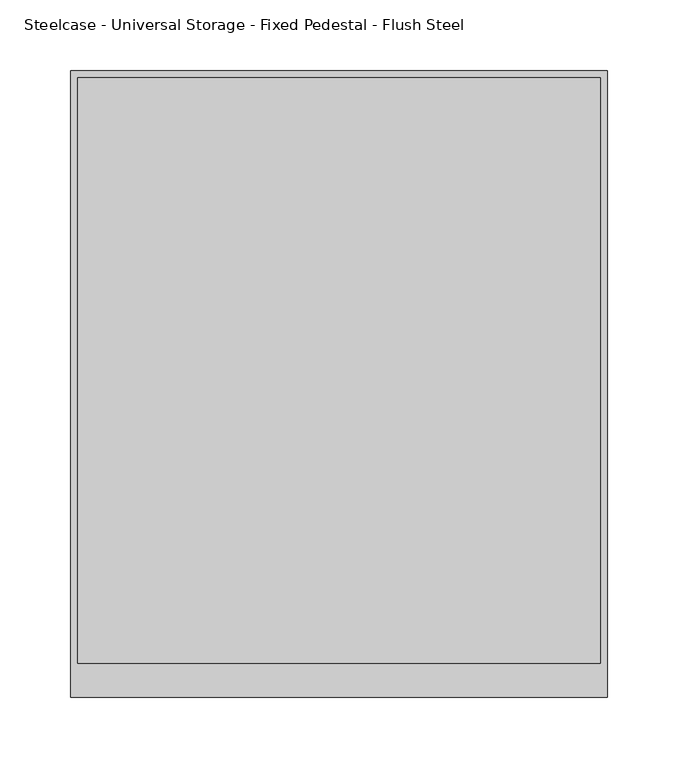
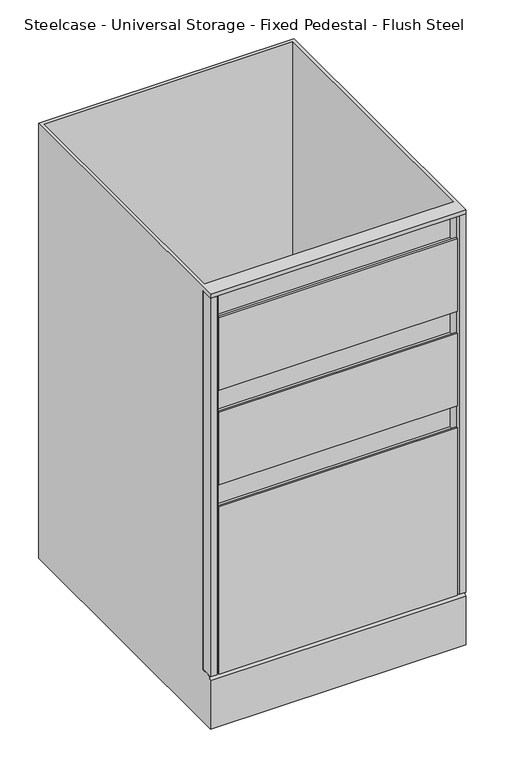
"""IFC4 building model written with IfcOpenShell, lengths in millimetres: furniture geometry, Steelcase - Universal Storage - Fixed Pedestal - Flush Steel : 2 Box/1 File - 27H x 17 1/2D."""

import ifcopenshell
import ifcopenshell.guid

model = None  # the IFC model being written
_history = None  # IfcOwnerHistory: only IFC2X3 demands one
_inside = {}  # id of a spatial element -> (the spatial element, [elements in it])
_under = {}  # id of a project, library or spatial element -> (it, [spatial elements below it])
_declared = {}  # id of a project -> (the project, [libraries it declares])
_typed = {}  # id of a type object -> (the type object, [elements of that type])
_made_of = {}  # id of a material, layer set ... -> (it, [elements and type objects made of it])


def new_model(schema):
    """Start an empty IFC model of exactly this schema.

    Asked for "IFC4X3", IfcOpenShell would pick the latest addendum, in which some entities
    have other attributes; the version numbers below select the first issue.
    IFC2X3 requires an IfcOwnerHistory on every rooted entity: one is made here for all.
    """
    global model, _history
    if schema == "IFC4X3":
        model = ifcopenshell.file(schema_version=(4, 3, 0, 0))
    else:
        model = ifcopenshell.file(schema=schema)
    _inside.clear()
    _under.clear()
    _declared.clear()
    _typed.clear()
    _made_of.clear()
    _history = None
    if model.schema == "IFC2X3":
        org = make("IfcOrganization", Name="unknown")
        user = make(
            "IfcPersonAndOrganization",
            ThePerson=make("IfcPerson", FamilyName="unknown"),
            TheOrganization=org,
        )
        app = make(
            "IfcApplication",
            ApplicationDeveloper=org,
            Version="unknown",
            ApplicationFullName="unknown",
            ApplicationIdentifier="unknown",
        )
        _history = make(
            "IfcOwnerHistory",
            OwningUser=user,
            OwningApplication=app,
            ChangeAction="ADDED",
            CreationDate=0,
        )
    return model


def make(cls, **values):
    """One entity of the class cls with the attributes given. An attribute that is None is left unset."""
    return model.create_entity(
        cls, **{name: value for name, value in values.items() if value is not None}
    )


def rooted(cls, **values):
    """An entity with a GlobalId (a new one), such as an element, a storey or a relation."""
    return make(cls, GlobalId=ifcopenshell.guid.new(), OwnerHistory=_history, **values)


def si_unit(unit_type, name, prefix=None):
    """IfcSIUnit, for example si_unit("LENGTHUNIT", "METRE", prefix="MILLI")."""
    return make("IfcSIUnit", UnitType=unit_type, Prefix=prefix, Name=name)


def assignment(units):
    """IfcUnitAssignment: the units of a project."""
    return None if units is None else make("IfcUnitAssignment", Units=units)


def point(xyz):
    """IfcCartesianPoint."""
    return None if xyz is None else make("IfcCartesianPoint", Coordinates=xyz)


def direction(xyz):
    """IfcDirection."""
    return None if xyz is None else make("IfcDirection", DirectionRatios=xyz)


def frame(location, z_axis=None, x_axis=None):
    """IfcAxis2Placement3D, a coordinate frame: its origin and axes. An axis left out is left unset."""
    return make(
        "IfcAxis2Placement3D",
        Location=point(location),
        Axis=direction(z_axis),
        RefDirection=direction(x_axis),
    )


def origin():
    """The frame at (0, 0, 0) with its axes left unset."""
    return frame((0.0, 0.0, 0.0))


def place(relative_to, where):
    """IfcLocalPlacement: puts the frame where relative to a parent placement (None: the world)."""
    return make(
        "IfcLocalPlacement", PlacementRelTo=relative_to, RelativePlacement=where
    )


def context(
    kind, dimensions, precision=None, world=None, true_north=None, identifier=None
):
    """IfcGeometricRepresentationContext, for example the 3D "Model" context."""
    return make(
        "IfcGeometricRepresentationContext",
        ContextIdentifier=identifier,
        ContextType=kind,
        CoordinateSpaceDimension=dimensions,
        Precision=precision,
        WorldCoordinateSystem=world,
        TrueNorth=true_north,
    )


def project(units=None, contexts=None):
    """IfcProject with its units and contexts."""
    return rooted(
        "IfcProject",
        Name="project",
        RepresentationContexts=contexts,
        UnitsInContext=assignment(units),
    )


def spatial(cls, under=None, at=None, **own):
    """A site, building, storey or space (cls), placed at a placement, below another one or the project."""
    s = rooted(cls, ObjectPlacement=at, **own)
    if under is not None:
        _under.setdefault(under.id(), (under, []))[1].append(s)
    return s


def polyline(points):
    """IfcPolyline through the points."""
    return make("IfcPolyline", Points=[point(p) for p in points])


def outline(outer, holes=None, kind="AREA"):
    """IfcArbitraryClosedProfileDef: a profile drawn as a closed curve; with holes, ...WithVoids."""
    if holes is None:
        return make("IfcArbitraryClosedProfileDef", ProfileType=kind, OuterCurve=outer)
    return make(
        "IfcArbitraryProfileDefWithVoids",
        ProfileType=kind,
        OuterCurve=outer,
        InnerCurves=holes,
    )


def extrude(swept, where, along, depth):
    """IfcExtrudedAreaSolid: the profile swept, set in the frame where, extruded along a direction by depth."""
    return make(
        "IfcExtrudedAreaSolid",
        SweptArea=swept,
        Position=where,
        ExtrudedDirection=direction(along),
        Depth=depth,
    )


def faces_of(points, faces, orient=None, outer=None):
    """IfcFace entities. A face is a list of loops; a loop is a list of indices into points, from 0.

    orient and outer hold one flag for each loop. By default every Orientation is true, the
    first loop of a face is its IfcFaceOuterBound and the others are IfcFaceBound.
    """
    made = []
    for i, loops in enumerate(faces):
        bounds = []
        for j, loop in enumerate(loops):
            is_outer = j == 0 if outer is None else outer[i][j]
            bounds.append(
                make(
                    "IfcFaceOuterBound" if is_outer else "IfcFaceBound",
                    Bound=make("IfcPolyLoop", Polygon=[points[k] for k in loop]),
                    Orientation=True if orient is None else orient[i][j],
                )
            )
        made.append(make("IfcFace", Bounds=bounds))
    return made


def faceted_brep(points, faces, orient=None, outer=None, voids=None):
    """IfcFacetedBrep: a solid bounded by flat faces; with voids (closed shells), ...WithVoids."""
    shared = [point(p) for p in points]
    hull = make("IfcClosedShell", CfsFaces=faces_of(shared, faces, orient, outer))
    if voids is None:
        return make("IfcFacetedBrep", Outer=hull)
    return make(
        "IfcFacetedBrepWithVoids",
        Outer=hull,
        Voids=[
            make(cls, CfsFaces=faces_of(shared, fs, o, b)) for cls, fs, o, b in voids
        ],
    )


def shape(context_of_items, identifier, shape_type, items):
    """IfcShapeRepresentation: the items that make up one representation, for example the "Body"."""
    return make(
        "IfcShapeRepresentation",
        ContextOfItems=context_of_items,
        RepresentationIdentifier=identifier,
        RepresentationType=shape_type,
        Items=items,
    )


def source(mapping_origin, context_of_items, identifier, shape_type, items):
    """IfcRepresentationMap: a shape defined once, which mapped items show again and again."""
    return make(
        "IfcRepresentationMap",
        MappingOrigin=mapping_origin,
        MappedRepresentation=shape(context_of_items, identifier, shape_type, items),
    )


def transform(
    local_origin,
    x_axis=None,
    y_axis=None,
    z_axis=None,
    scale=None,
    scale2=None,
    scale3=None,
    uniform=True,
):
    """IfcCartesianTransformationOperator3D, or its non-uniform kind. x_axis, y_axis, z_axis: its Axis1, 2, 3."""
    if uniform:
        return make(
            "IfcCartesianTransformationOperator3D",
            Axis1=direction(x_axis),
            Axis2=direction(y_axis),
            LocalOrigin=point(local_origin),
            Scale=scale,
            Axis3=direction(z_axis),
        )
    return make(
        "IfcCartesianTransformationOperator3DnonUniform",
        Axis1=direction(x_axis),
        Axis2=direction(y_axis),
        LocalOrigin=point(local_origin),
        Scale=scale,
        Axis3=direction(z_axis),
        Scale2=scale2,
        Scale3=scale3,
    )


def mapped(mapping_source, mapping_target):
    """IfcMappedItem: shows the shape of a source again, moved by a transform."""
    return make(
        "IfcMappedItem", MappingSource=mapping_source, MappingTarget=mapping_target
    )


def made_of(thing, what):
    """Note that an element or type object is made of a material, layer set ...; save() writes the relation."""
    if what is not None:
        _made_of.setdefault(what.id(), (what, []))[1].append(thing)
    return thing


def element(
    cls,
    number,
    at=None,
    inside=None,
    cuts=None,
    type_object=None,
    material=None,
    context=None,
    identifier="Body",
    shape_type=None,
    held_by="IfcProductDefinitionShape",
    body=None,
    shapes=None,
    **own,
):
    """One element of the class cls, such as IfcWall. Its Tag is "e" and its number.

    at: its placement. inside: the storey or other place that contains it. cuts: it is an
    opening in that element (IfcRelVoidsElement). A single representation is given by context,
    identifier, shape_type and body (its items); several are given by shapes. held_by: the class
    of the entity that holds the representations. save() writes the other relations.
    """
    e = rooted(cls, Tag="e%d" % number, ObjectPlacement=at, **own)
    if body is not None:
        shapes = [shape(context, identifier, shape_type, body)]
    if shapes is not None:
        e.Representation = make(held_by, Representations=shapes)
    if inside is not None:
        _inside.setdefault(inside.id(), (inside, []))[1].append(e)
    if cuts is not None:
        rooted(
            "IfcRelVoidsElement", RelatingBuildingElement=cuts, RelatedOpeningElement=e
        )
    if type_object is not None:
        _typed.setdefault(type_object.id(), (type_object, []))[1].append(e)
    return made_of(e, material)


def aggregate(whole, parts):
    """IfcRelAggregates: a whole, such as a stair, and the parts it consists of."""
    return rooted("IfcRelAggregates", RelatingObject=whole, RelatedObjects=parts)


def save(model, path):
    """Write the relations noted so far, then the file.

    IfcRelAggregates (storeys below a building ...), IfcRelContainedInSpatialStructure (elements
    in a storey), IfcRelDefinesByType, IfcRelAssociatesMaterial and IfcRelDeclares: one each for
    every whole, place, type object, material and project.
    """
    for whole, parts in _under.values():
        aggregate(whole, parts)
    for where, things in _inside.values():
        rooted(
            "IfcRelContainedInSpatialStructure",
            RelatedElements=things,
            RelatingStructure=where,
        )
    for kind, things in _typed.values():
        rooted("IfcRelDefinesByType", RelatedObjects=things, RelatingType=kind)
    for what, things in _made_of.values():
        rooted("IfcRelAssociatesMaterial", RelatedObjects=things, RelatingMaterial=what)
    for by, libraries in _declared.values():
        rooted("IfcRelDeclares", RelatingContext=by, RelatedDefinitions=libraries)
    model.write(path)


def steelcase_universal_storage_fixed_pedestal_flush_steel_f2818aca(model_context):
    return source(origin(), model_context, "Body", "SolidModel", [
        extrude(outline(polyline([(368.3000121, 0.0), (12.7000004, 0.0), (12.7000004, 3.1750001), (368.3000121, 3.1750001), (368.3000121, 0.0)])), frame((0.0, 0.0, 530.2250121), z_axis=(0.0, 0.0, 1.0), x_axis=(1.0, 0.0, 0.0)), (0.0, 0.0, 1.0), 114.2999637),
        extrude(outline(polyline([(368.3000121, 0.0), (12.7000004, 0.0), (12.7000004, 3.1750001), (368.3000121, 3.1750001), (368.3000121, 0.0)])), frame((0.0, 0.0, 381.0000363), z_axis=(0.0, 0.0, 1.0), x_axis=(1.0, 0.0, 0.0)), (0.0, 0.0, 1.0), 114.1729758),
        extrude(outline(polyline([(368.3000121, 3.1750001), (12.7000004, 3.1750001), (12.7000004, 19.0495469), (368.3000121, 19.0495469), (368.3000121, 3.1750001)])), frame((0.0, 0.0, 82.550003), z_axis=(0.0, 0.0, 1.0), x_axis=(1.0, 0.0, 0.0)), (0.0, 0.0, 1.0), 254.000003),
        extrude(outline(polyline([(368.3000121, 3.1750001), (12.7000004, 3.1750001), (12.7000004, 19.0495469), (368.3000121, 19.0495469), (368.3000121, 3.1750001)])), frame((0.0, 0.0, 381.0000363), z_axis=(0.0, 0.0, 1.0), x_axis=(1.0, 0.0, 0.0)), (0.0, 0.0, 1.0), 104.7749637),
        extrude(outline(polyline([(368.3000121, 3.1750001), (12.7000004, 3.1750001), (12.7000004, 19.0495469), (368.3000121, 19.0495469), (368.3000121, 3.1750001)])), frame((0.0, 0.0, 530.2250121), z_axis=(0.0, 0.0, 1.0), x_axis=(1.0, 0.0, 0.0)), (0.0, 0.0, 1.0), 104.7749637),
        extrude(outline(polyline([(368.3000121, 0.0), (12.7000004, 0.0), (12.7000004, 3.1750001), (368.3000121, 3.1750001), (368.3000121, 0.0)])), frame((0.0, 0.0, 82.550003), z_axis=(0.0, 0.0, 1.0), x_axis=(1.0, 0.0, 0.0)), (0.0, 0.0, 1.0), 263.5249849),
        faceted_brep([(381.0, 0.0, 679.4500242), (381.0, 19.0495469, 679.4500242), (381.0, 19.0495469, 82.550003), (381.0, 6.350003, 82.550003), (381.0, 0.0, 76.2), (381.0, 0.0, 0.0), (381.0, 444.5, 0.0), (381.0, 444.5, 685.8), (381.0, 0.0, 685.8), (0.0, 0.0, 679.4500242), (0.0, 0.0, 685.8), (0.0, 444.5, 685.8), (0.0, 444.5, 0.0), (0.0, 0.0, 0.0), (0.0, 0.0, 76.2), (0.0, 6.350003, 82.550003), (0.0, 19.0495469, 82.550003), (0.0, 19.0495469, 679.4500242), (5.08, 439.42, 685.8), (375.92, 439.42, 685.8), (375.92, 24.1295469, 685.8), (5.08, 24.1295469, 685.8), (375.92, 439.42, 82.550003), (5.08, 439.42, 82.550003), (5.08, 24.1295469, 82.550003), (375.92, 24.1295469, 82.550003)], [[[0, 1, 2, 3, 4, 5, 6, 7, 8]], [[9, 10, 11, 12, 13, 14, 15, 16, 17]], [[1, 0, 9, 17]], [[2, 1, 17, 16]], [[2, 16, 15, 3]], [[13, 5, 4, 14]], [[6, 5, 13, 12]], [[7, 6, 12, 11]], [[8, 7, 11, 10], [18, 19, 20, 21]], [[0, 8, 10, 9]], [[4, 3, 15, 14]], [[22, 23, 24, 25]], [[23, 22, 19, 18]], [[24, 23, 18, 21]], [[25, 24, 21, 20]], [[22, 25, 20, 19]]]),
        extrude(outline(polyline([(12.7000004, 19.0495469), (12.7000004, 3.1750001), (9.5250003, 0.0), (0.0, 0.0), (0.0, 19.0495469), (12.7000004, 19.0495469)])), frame((0.0, 0.0, 82.550003), z_axis=(0.0, 0.0, 1.0), x_axis=(1.0, 0.0, 0.0)), (0.0, 0.0, 1.0), 596.9000212),
        extrude(outline(polyline([(381.0000125, 19.0495469), (381.0000125, 0.0), (371.4750122, 0.0), (368.3000121, 3.1750001), (368.3000121, 19.0495469), (381.0000125, 19.0495469)])), frame((0.0, 0.0, 82.550003), z_axis=(0.0, 0.0, 1.0), x_axis=(1.0, 0.0, 0.0)), (0.0, 0.0, 1.0), 596.9000212),
    ])


if __name__ == "__main__":
    model = new_model("IFC4")
    model_context = context("Model", 3, world=origin())
    ifc_project = project(units=[si_unit("LENGTHUNIT", "METRE", prefix="MILLI")], contexts=[model_context])
    site = spatial("IfcSite", under=ifc_project)
    building = spatial("IfcBuilding", under=site)
    placement = place(None, origin())
    steelcase_universal_storage_fixed_pedestal_flush_steel_shape = steelcase_universal_storage_fixed_pedestal_flush_steel_f2818aca(model_context)
    element("IfcFurniture", 1, ObjectType="Steelcase - Universal Storage - Fixed Pedestal - Flush Steel : 2 Box/1 File - 27H x 17 1/2D", at=placement, inside=building, context=model_context, shape_type="MappedRepresentation", body=[
        mapped(steelcase_universal_storage_fixed_pedestal_flush_steel_shape, transform((0.0, 0.0, 0.0), x_axis=(1.0, 0.0, 0.0), y_axis=(0.0, 1.0, 0.0), z_axis=(0.0, 0.0, 1.0))),
    ])
    save(model, "model.ifc")
